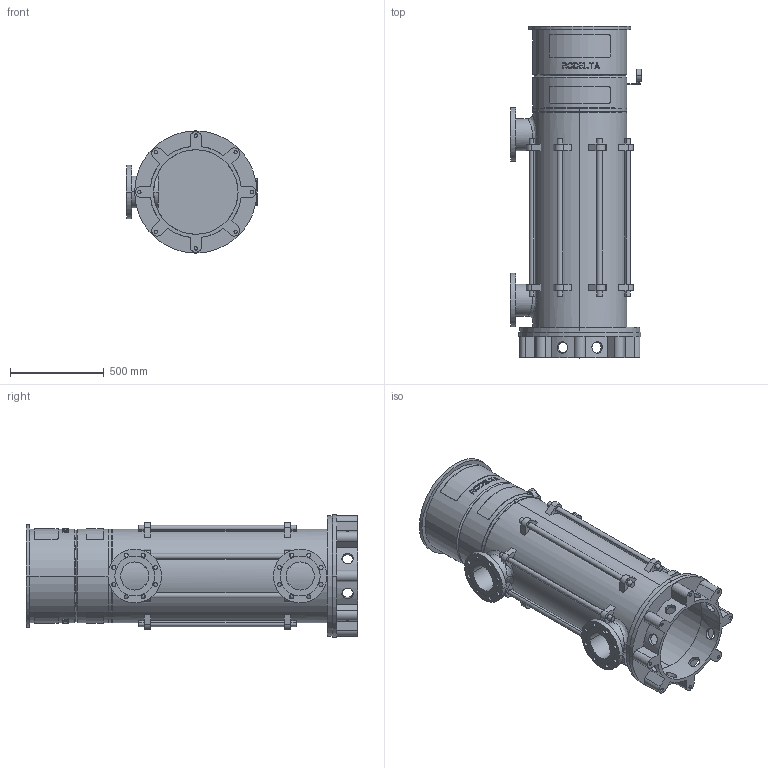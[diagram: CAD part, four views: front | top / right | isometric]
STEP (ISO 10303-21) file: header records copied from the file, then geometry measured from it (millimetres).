
FILE_DESCRIPTION((''),'2;1');
FILE_NAME('LS6_5TR_0GR_PN16_ABOVE_30KW','2025-10-23T15:24:42',('Lyritlocal'),(''),'CREO PARAMETRIC BY PTC INC, 2022014','CREO PARAMETRIC BY PTC INC, 2022014','');
FILE_SCHEMA(('CONFIG_CONTROL_DESIGN'));
Length unit declared in the file: millimetre
Products named in the file (1): LS6_5TR_0GR_PN16_ABOVE_30KW
Bounding box: 700 x 1765 x 650 mm (x, y, z)
Volume: 56775692.7 mm3; surface area: 7959214.9 mm2
Topology: 3 solids, 11 shells, 732 faces, 1889 edges, 1258 vertices
Faces by surface type: plane 438, cylinder 274, cone 12, bspline 8
Entity records: 24200 total; most frequent: CARTESIAN_POINT 6380, ORIENTED_EDGE 3746, DIRECTION 3535, EDGE_CURVE 1889, AXIS2_PLACEMENT_3D 1341, VERTEX_POINT 1258, EDGE_LOOP 895, VECTOR 853
